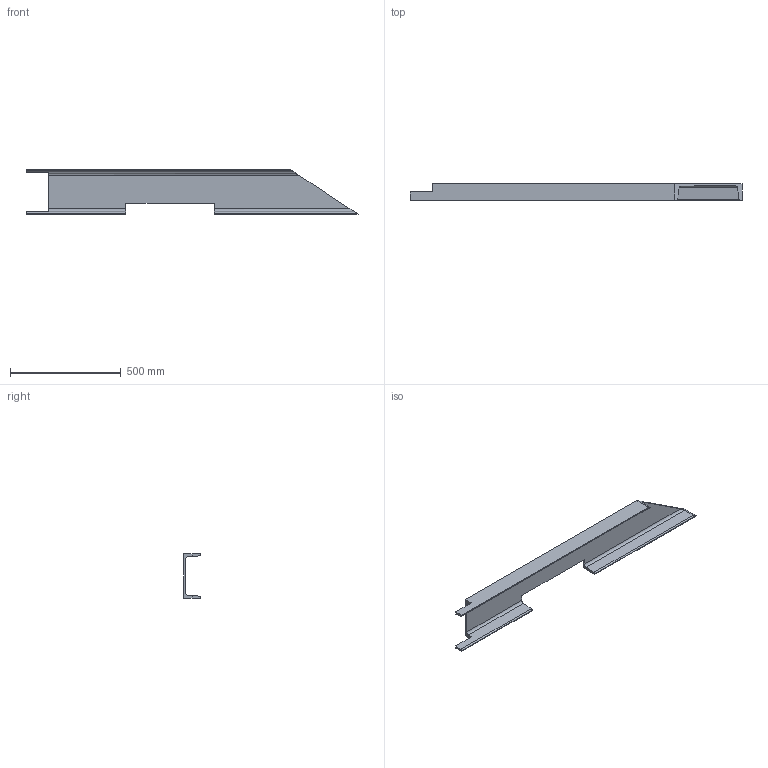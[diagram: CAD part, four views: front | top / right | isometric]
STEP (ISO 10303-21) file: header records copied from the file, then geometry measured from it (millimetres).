
FILE_DESCRIPTION(('Open CASCADE Model'),'2;1');
FILE_NAME('Open CASCADE Shape Model','2016-07-06T13:46:26',('Author'),( 'Open CASCADE'),'Open CASCADE STEP processor 6.8','Open CASCADE 6.8' ,'Unknown');
FILE_SCHEMA(('AUTOMOTIVE_DESIGN_CC2 { 1 2 10303 214 -1 1 5 4 }'));
Length unit declared in the file: millimetre
Products named in the file (1): Open CASCADE STEP translator 6.8 1
Bounding box: 1499.98 x 75 x 200 mm (x, y, z)
Volume: 3615478.3 mm3; surface area: 765241 mm2
Topology: 1 solids, 1 shells, 26 faces, 72 edges, 48 vertices
Faces by surface type: plane 20, cylinder 6
Entity records: 1790 total; most frequent: CARTESIAN_POINT 367, DIRECTION 254, LINE 168, VECTOR 168, ORIENTED_EDGE 144, PCURVE 144, DEFINITIONAL_REPRESENTATION 144, EDGE_CURVE 72
